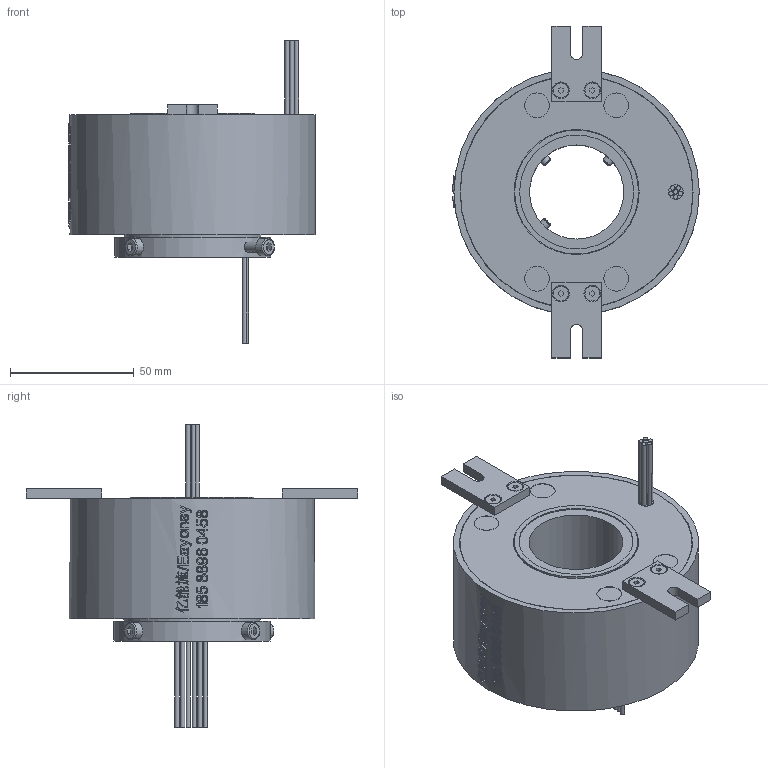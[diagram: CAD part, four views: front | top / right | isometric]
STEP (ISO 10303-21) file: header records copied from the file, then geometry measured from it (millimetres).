
FILE_DESCRIPTION(/* description */ (''),/* implementation_level */ '2;1');
FILE_NAME(/* name */ 'YDS3899-0610-3D模型.stp',/* time_stamp */ '2025-09-03T15:50:18+08:00',/* author */ (''),/* organization */ (''),/* preprocessor_version */ 'ST-DEVELOPER v16.7',/* originating_system */ 'SIEMENS PLM Software NX 12.0',/* authorisation */ '');
FILE_SCHEMA (('AUTOMOTIVE_DESIGN { 1 0 10303 214 3 1 1 1 }'));
Length unit declared in the file: millimetre
Products named in the file (1): Admi1DD8882Fzmnh
Bounding box: 99.5 x 134 x 122.1 mm (x, y, z)
Volume: 341539.7 mm3; surface area: 44610.1 mm2
Topology: 1 solids, 2 shells, 926 faces, 2458 edges, 1635 vertices
Faces by surface type: extrusion 452, plane 357, cylinder 72, bspline 33, cone 8, torus 4
Full cylindrical faces by diameter (mm): 1.8 x12, 3.4 x1, 4 x7, 6 x5, 7 x4, 10 x4, 38 x1, 46 x1, 50 x2, 50.5 x2, 55 x2, 55.1 x1, 63 x1, 93.9 x2, 94 x2, 99 x1
Entity records: 36505 total; most frequent: CARTESIAN_POINT 17061, ORIENTED_EDGE 4764, EDGE_CURVE 2382, DIRECTION 2244, B_SPLINE_CURVE_WITH_KNOTS 2203, VERTEX_POINT 1619, EDGE_LOOP 1093, ADVANCED_FACE 926
